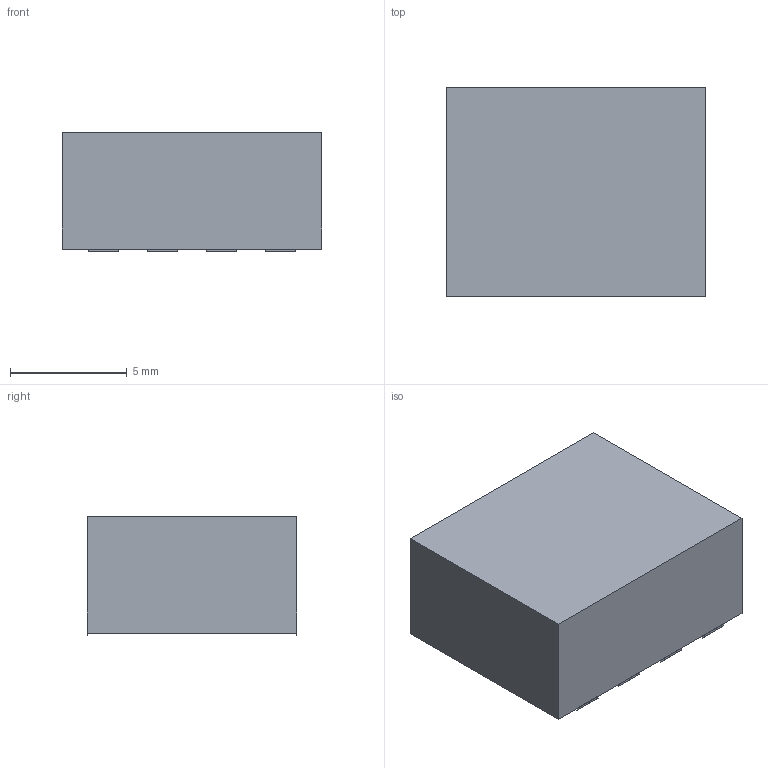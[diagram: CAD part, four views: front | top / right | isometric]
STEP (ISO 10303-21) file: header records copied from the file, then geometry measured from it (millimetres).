
FILE_DESCRIPTION(('FreeCAD Model'),'2;1');
FILE_NAME('/var/www/3D/0T/888316.1.1.stp','2020-04-09T14:33:53',( 'Author'),(''),'Open CASCADE STEP processor 6.9','FreeCAD','Unknown' );
FILE_SCHEMA(('AUTOMOTIVE_DESIGN { 1 0 10303 214 1 1 1 1 }'));
Length unit declared in the file: millimetre
Products named in the file (3): ASSEMBLY; Body; Pins
Assembly tree (2 placements, depth 2):
  ASSEMBLY
    Body
    Pins
Bounding box: 11.15 x 9 x 5.1 mm (x, y, z)
Volume: 501.8 mm3; surface area: 404.5 mm2
Topology: 9 solids, 9 shells, 54 faces, 108 edges, 72 vertices
Faces by surface type: plane 54
Entity records: 2891 total; most frequent: CARTESIAN_POINT 453, DIRECTION 438, LINE 324, VECTOR 324, ORIENTED_EDGE 216, PCURVE 216, DEFINITIONAL_REPRESENTATION 216, EDGE_CURVE 108
